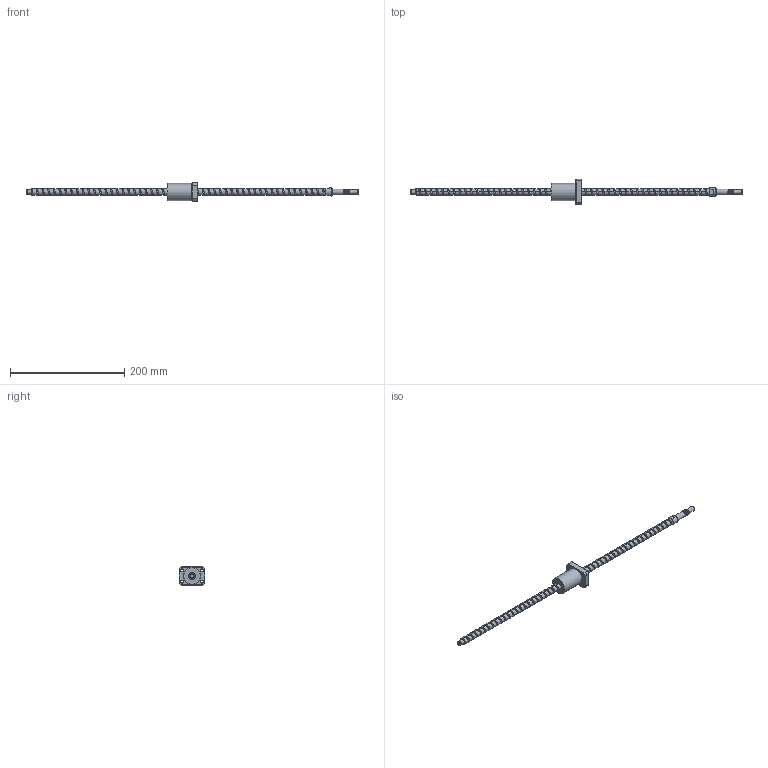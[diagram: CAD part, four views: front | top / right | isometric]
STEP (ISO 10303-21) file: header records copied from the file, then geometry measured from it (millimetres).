
FILE_DESCRIPTION (( 'STEP AP203' ), '1' );
FILE_NAME ('XSVR01210B1DGC5-580-P1.step', '2024-06-03T03:44:26', ( '' ), ( '' ), 'SwSTEP 2.0', 'SolidWorks 2022', '' );
FILE_SCHEMA (( 'CONFIG_CONTROL_DESIGN' ));
Length unit declared in the file: millimetre
Products named in the file (1): XSVR01210B1DGC5-580-P1
Bounding box: 580 x 45 x 32 mm (x, y, z)
Volume: 95952.8 mm3; surface area: 33822.3 mm2
Topology: 2 solids, 2 shells, 174 faces, 461 edges, 295 vertices
Faces by surface type: cylinder 91, plane 38, bspline 22, cone 14, torus 9
Full cylindrical faces by diameter (mm): 3.998 x1, 4 x2, 4.5 x4, 7.6 x1, 8 x7, 10 x10, 12 x51, 13.5 x1, 14 x1, 30 x1
Entity records: 18225 total; most frequent: CARTESIAN_POINT 15938, ORIENTED_EDGE 464, DIRECTION 394, EDGE_CURVE 232, AXIS2_PLACEMENT_3D 172, EDGE_LOOP 164, VERTEX_POINT 160, FACE_OUTER_BOUND 133
